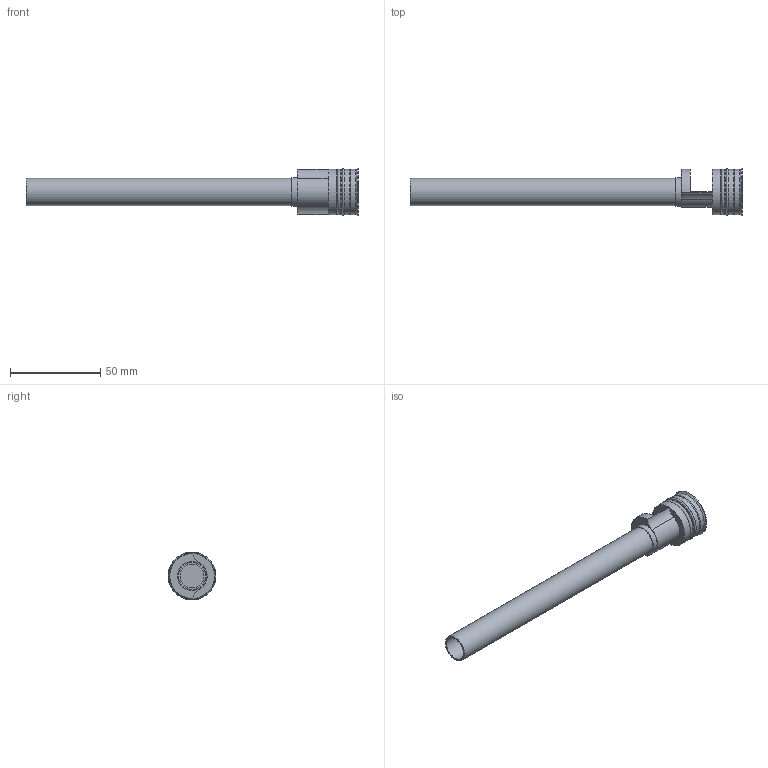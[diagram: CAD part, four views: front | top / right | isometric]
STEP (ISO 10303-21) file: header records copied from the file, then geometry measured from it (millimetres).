
FILE_DESCRIPTION( ( 'STEP AP214' ), '1' );
FILE_NAME( 'p:/temp/worker_240/temp/exporttempdir_1400_686_kqyYL/format_0/RF-25Fx150.stp', '2021-02-05T19:50:20', ( 'License CC BY-ND 4.0' ), ( 'CADENAS' ), ' ', 'PARTsolutions', ' ' );
FILE_SCHEMA( ( 'AUTOMOTIVE_DESIGN { 1 0 10303 214 1 1 1 1 }' ) );
Length unit declared in the file: millimetre
Products named in the file (1): _RF-25Fx150
Bounding box: 183.5 x 26.5 x 26.5 mm (x, y, z)
Volume: 16311 mm3; surface area: 18005.4 mm2
Topology: 1 solids, 1 shells, 48 faces, 110 edges, 70 vertices
Faces by surface type: plane 27, cylinder 13, cone 5, torus 3
Full cylindrical faces by diameter (mm): 10 x1, 13 x1, 15 x1, 16 x1, 25 x4, 26.5 x1
Entity records: 1671 total; most frequent: CARTESIAN_POINT 228, DIRECTION 221, ORIENTED_EDGE 184, EDGE_CURVE 92, AXIS2_PLACEMENT_3D 85, EDGE_LOOP 72, VERTEX_POINT 70, FACE_OUTER_BOUND 60
